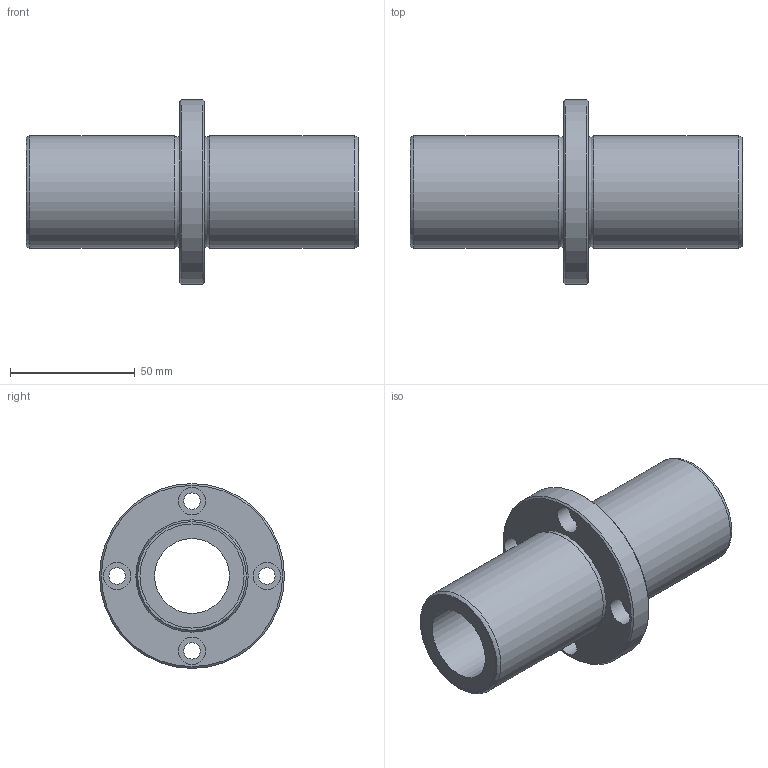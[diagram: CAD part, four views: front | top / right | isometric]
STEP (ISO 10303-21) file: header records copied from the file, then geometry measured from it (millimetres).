
FILE_DESCRIPTION((''),'2;1');
FILE_NAME('D:\製品 (図面)\カタログ用3D\メンテナンスフリー関連\STEP形式\LFDC-MF\LFDC30MF.stp','2010-06-01T15:40:01',('Tsuchiya'),(''),'Autodesk Inventor 10','Autodesk Inventor 10','');
FILE_SCHEMA(('AUTOMOTIVE_DESIGN { 1 0 10303 214 1 1 1 1 }'));
Length unit declared in the file: millimetre
Products named in the file (1): LFDC30MF
Bounding box: 133 x 74 x 74 mm (x, y, z)
Volume: 141075 mm3; surface area: 40138.4 mm2
Topology: 1 solids, 1 shells, 30 faces, 54 edges, 34 vertices
Faces by surface type: cylinder 14, plane 10, cone 2, torus 2, bspline 2
Full cylindrical faces by diameter (mm): 6.6 x4, 11 x4, 30 x1, 41.7 x2, 45 x2, 74 x1
Entity records: 803 total; most frequent: CARTESIAN_POINT 223, DIRECTION 126, ORIENTED_EDGE 68, EDGE_LOOP 68, AXIS2_PLACEMENT_3D 63, FACE_BOUND 38, VERTEX_POINT 34, CIRCLE 34
